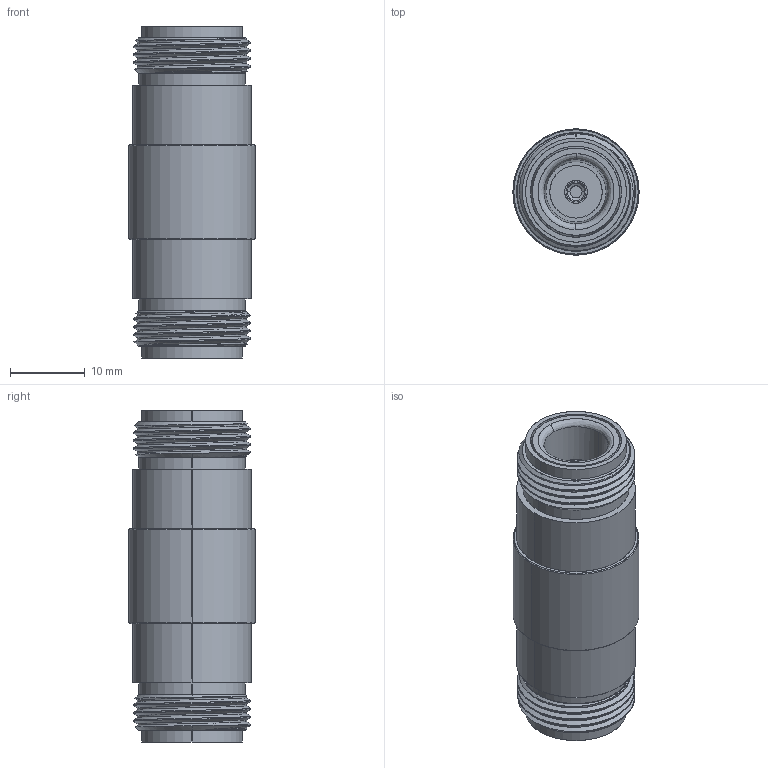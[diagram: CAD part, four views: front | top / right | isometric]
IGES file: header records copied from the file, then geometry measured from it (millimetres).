
Start section: SolidWorks IGES file using analytic representation for surfaces
Global section: file name: C:\Users\sculpepper\Desktop\mouser\1128000A000-005\1128000A000-005igs.IGS; native system: SolidWorks 2019; preprocessor: SolidWorks 2019; author: sculpepper; date: 210514.140145; units: inch
Bounding box: 16.89 x 16.89 x 44.42 mm (x, y, z)
Surface area: 4695.9 mm2 (no closed solid volume)
Topology: 0 solids, 0 shells, 149 faces, 2392 edges, 2392 vertices
Faces by surface type: revolution 88, bspline 61
